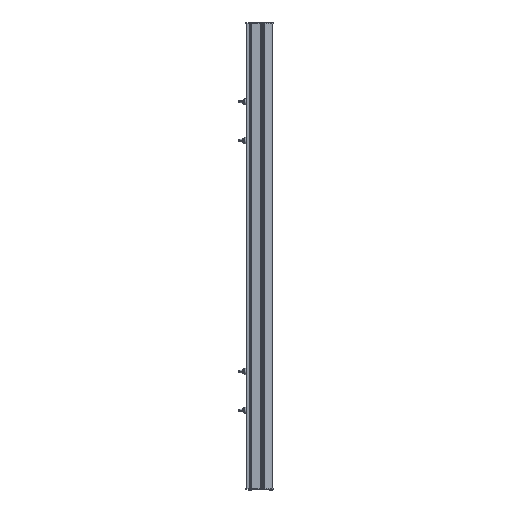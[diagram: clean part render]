
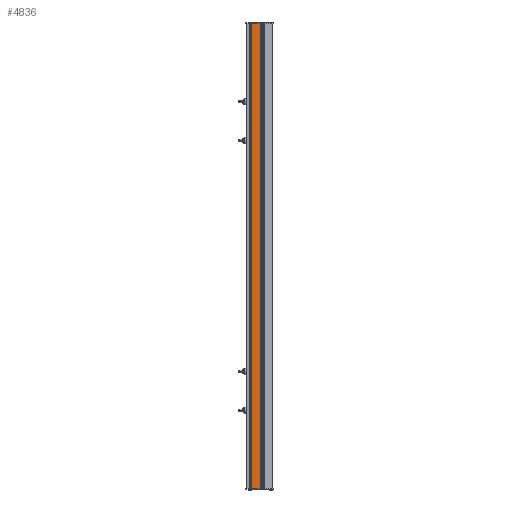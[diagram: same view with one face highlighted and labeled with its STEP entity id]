
A CAD part, front view. The second image highlights one B-rep face of the part: STEP entity #4836.
In plain terms, the highlighted planar face has unit normal (0, -1, 0).
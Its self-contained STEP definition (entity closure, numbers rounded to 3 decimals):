
#4784=CARTESIAN_POINT('Vertex',(11.5,-130.,-1200.)) ;
#4787=CARTESIAN_POINT('Line Origine',(11.5,-130.,600.)) ;
#4791=CARTESIAN_POINT('Vertex',(11.5,-130.,1200.)) ;
#4806=CARTESIAN_POINT('Axis2P3D Location',(0.,-130.,0.)) ;
#4811=CARTESIAN_POINT('Line Origine',(35.75,-130.,-1200.)) ;
#4815=CARTESIAN_POINT('Vertex',(60.,-130.,-1200.)) ;
#4818=CARTESIAN_POINT('Line Origine',(60.,-130.,0.)) ;
#4822=CARTESIAN_POINT('Vertex',(60.,-130.,1200.)) ;
#4825=CARTESIAN_POINT('Line Origine',(35.75,-130.,1200.)) ;
#4788=DIRECTION('Vector Direction',(0.,0.,-1.)) ;
#4807=DIRECTION('Axis2P3D Direction',(0.,-1.,0.)) ;
#4808=DIRECTION('Axis2P3D XDirection',(1.,0.,0.)) ;
#4812=DIRECTION('Vector Direction',(-1.,0.,0.)) ;
#4819=DIRECTION('Vector Direction',(0.,0.,-1.)) ;
#4826=DIRECTION('Vector Direction',(1.,0.,0.)) ;
#4809=AXIS2_PLACEMENT_3D('Plane Axis2P3D',#4806,#4807,#4808) ;
#4789=VECTOR('Line Direction',#4788,1.) ;
#4813=VECTOR('Line Direction',#4812,1.) ;
#4820=VECTOR('Line Direction',#4819,1.) ;
#4827=VECTOR('Line Direction',#4826,1.) ;
#4793=EDGE_CURVE('',#4785,#4792,#4790,.F.) ;
#4817=EDGE_CURVE('',#4816,#4785,#4814,.T.) ;
#4824=EDGE_CURVE('',#4823,#4816,#4821,.T.) ;
#4829=EDGE_CURVE('',#4792,#4823,#4828,.T.) ;
#4810=PLANE('',#4809) ;
#4831=ORIENTED_EDGE('',*,*,#4793,.F.) ;
#4832=ORIENTED_EDGE('',*,*,#4817,.F.) ;
#4833=ORIENTED_EDGE('',*,*,#4824,.F.) ;
#4834=ORIENTED_EDGE('',*,*,#4829,.F.) ;
#4836=ADVANCED_FACE('PartBody',(#4835),#4810,.T.) ;
#4830=EDGE_LOOP('',(#4831,#4832,#4833,#4834)) ;
#4835=FACE_OUTER_BOUND('',#4830,.T.) ;
#4790=LINE('Line',#4787,#4789) ;
#4814=LINE('Line',#4811,#4813) ;
#4821=LINE('Line',#4818,#4820) ;
#4828=LINE('Line',#4825,#4827) ;
#4785=VERTEX_POINT('',#4784) ;
#4792=VERTEX_POINT('',#4791) ;
#4816=VERTEX_POINT('',#4815) ;
#4823=VERTEX_POINT('',#4822) ;
